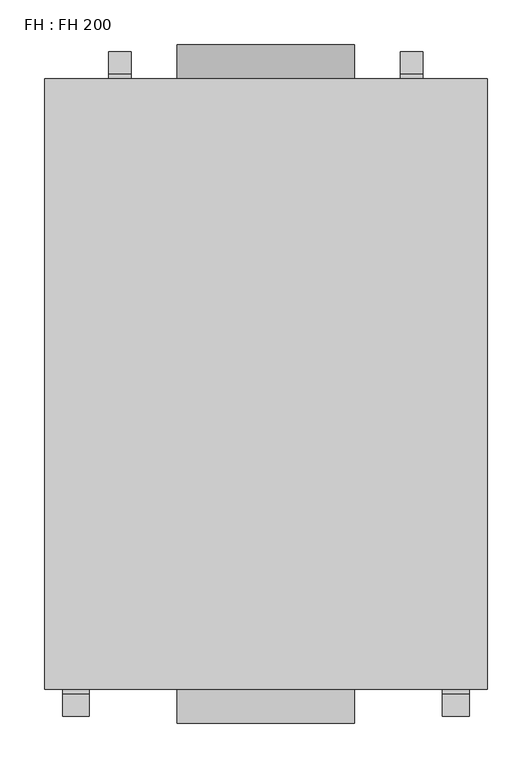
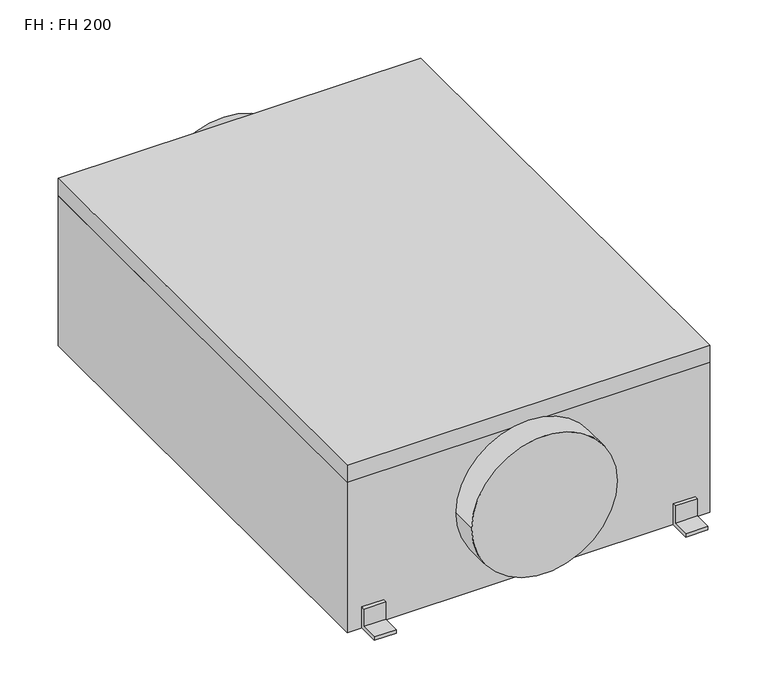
"""IFC4 building model written with IfcOpenShell, lengths in millimetres: proxy geometry, FH : FH 200."""

from ifc_helpers import new_model, si_unit, point, frame, frame_2d, origin, origin_with_axes, place, context, project, spatial, polyline, circle_curve, trimmed, segment, composite_curve, outline, extrude, source, transform, mapped, element, save


def fh_fh_200_396573c7(model_context):
    return source(origin(), model_context, "Body", "SweptSolid", [
        extrude(outline(polyline([(248.0, 342.0), (248.0, -342.0), (-248.0, -342.0), (-248.0, 342.0), (248.0, 342.0)])), frame((0.0, 0.0, 217.0), z_axis=(0.0, 0.0, 1.0), x_axis=(1.0, 0.0, 0.0)), (0.0, 0.0, 1.0), 25.0),
        extrude(outline(polyline([(-342.0, 30.0), (-342.0, 0.0), (-372.0, 0.0), (-372.0, 5.0), (-347.0, 5.0), (-347.0, 30.0), (-342.0, 30.0)])), frame((198.0, 0.0, 0.0), z_axis=(1.0, 0.0, 0.0), x_axis=(0.0, 1.0, 0.0)), (0.0, 0.0, 1.0), 30.0),
        extrude(outline(polyline([(-342.0, 30.0), (-342.0, 0.0), (-372.0, 0.0), (-372.0, 5.0), (-347.0, 5.0), (-347.0, 30.0), (-342.0, 30.0)])), frame((-228.0, 0.0, 0.0), z_axis=(1.0, 0.0, 0.0), x_axis=(0.0, 1.0, 0.0)), (0.0, 0.0, 1.0), 30.0),
        extrude(outline(polyline([(248.0, 342.0), (248.0, -342.0), (-248.0, -342.0), (-248.0, 342.0), (248.0, 342.0)])), origin_with_axes(), (0.0, 0.0, 1.0), 217.0),
        extrude(outline(polyline([(342.0, 30.0), (347.0, 30.0), (347.0, 5.0), (372.0, 5.0), (372.0, 0.0), (342.0, 0.0), (342.0, 30.0)])), frame((151.0, 0.0, 0.0), z_axis=(1.0, 0.0, 0.0), x_axis=(0.0, 1.0, 0.0)), (0.0, 0.0, 1.0), 25.0),
        extrude(outline(polyline([(342.0, 30.0), (347.0, 30.0), (347.0, 5.0), (372.0, 5.0), (372.0, 0.0), (342.0, 0.0), (342.0, 30.0)])), frame((-176.0, 0.0, 0.0), z_axis=(1.0, 0.0, 0.0), x_axis=(0.0, 1.0, 0.0)), (0.0, 0.0, 1.0), 25.0),
        extrude(outline(composite_curve([segment(trimmed(circle_curve(frame_2d((121.0, 0.0)), 99.5), [point((121.0, -99.5))], [point((121.0, 99.5))], False, "CARTESIAN"), True, "CONTINUOUS"), segment(trimmed(circle_curve(frame_2d((121.0, 0.0)), 99.5), [point((121.0, 99.5))], [point((121.0, -99.5))], False, "CARTESIAN"), True, "CONTINUOUS")], self_intersect=False)), frame((0.0, -380.0, 0.0), z_axis=(0.0, 1.0, 0.0), x_axis=(0.0, 0.0, 1.0)), (0.0, 0.0, 1.0), 38.0),
        extrude(outline(composite_curve([segment(trimmed(circle_curve(frame_2d((121.0, 0.0)), 99.5), [point((121.0, -99.5))], [point((121.0, 99.5))], False, "CARTESIAN"), True, "CONTINUOUS"), segment(trimmed(circle_curve(frame_2d((121.0, 0.0)), 99.5), [point((121.0, 99.5))], [point((121.0, -99.5))], False, "CARTESIAN"), True, "CONTINUOUS")], self_intersect=False)), frame((0.0, 342.0, 0.0), z_axis=(0.0, 1.0, 0.0), x_axis=(0.0, 0.0, 1.0)), (0.0, 0.0, 1.0), 38.0),
    ])


if __name__ == "__main__":
    model = new_model("IFC4")
    model_context = context("Model", 3, world=origin())
    ifc_project = project(units=[si_unit("LENGTHUNIT", "METRE", prefix="MILLI")], contexts=[model_context])
    site = spatial("IfcSite", under=ifc_project)
    building = spatial("IfcBuilding", under=site)
    placement = place(None, origin())
    fh_fh_200_shape = fh_fh_200_396573c7(model_context)
    element("IfcBuildingElementProxy", 1, Name="FH : FH 200", ObjectType="FH : FH 200", at=placement, inside=building, context=model_context, shape_type="MappedRepresentation", body=[
        mapped(fh_fh_200_shape, transform((0.0, 0.0, 0.0), x_axis=(1.0, 0.0, 0.0), y_axis=(0.0, 1.0, 0.0), z_axis=(0.0, 0.0, 1.0))),
    ])
    save(model, "model.ifc")
